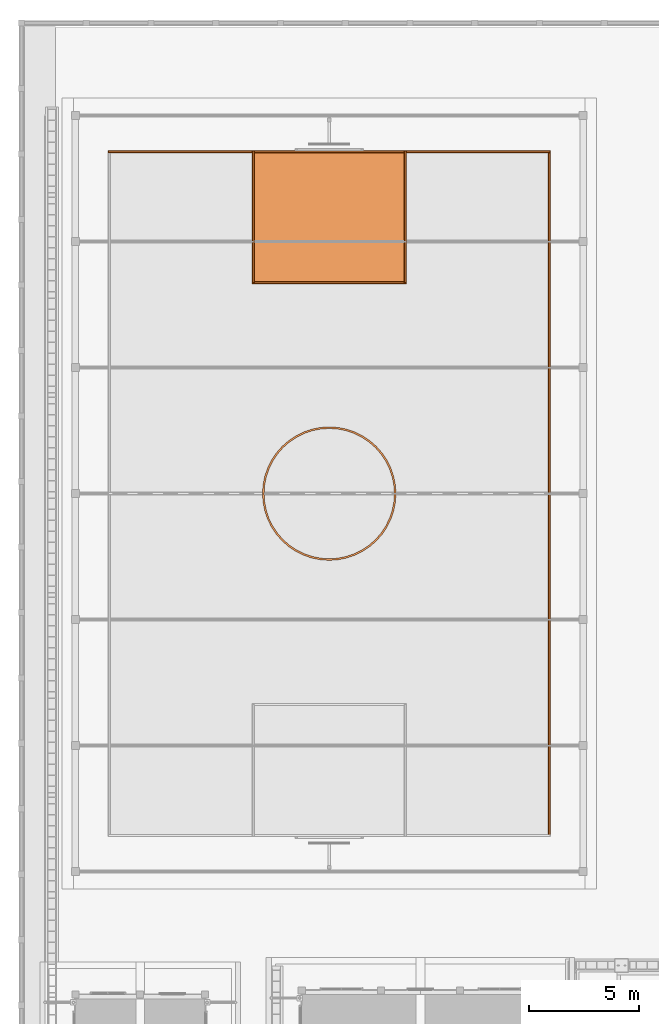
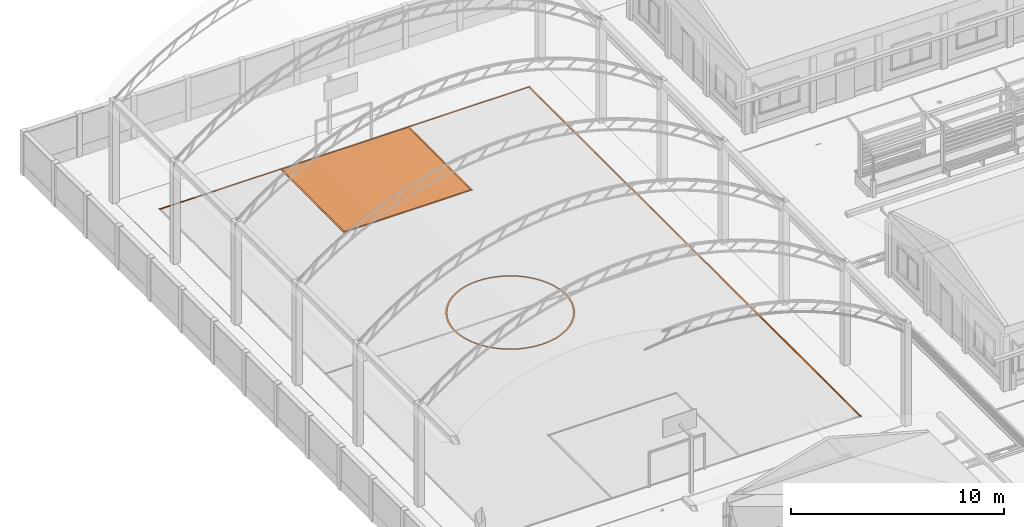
# One storey, part 150 of 151: 7 proxies.
"""IFC2X3 building model written with IfcOpenShell, lengths in metres."""

from ifc_helpers import new_model, si_unit, origin, origin_with_axes, place, context, subcontext, project, spatial, faceted_brep, element, save


model = new_model("IFC2X3")

# Units and contexts
model_context = context("Model", 3, precision=1e-05, world=origin_with_axes())
body_context = subcontext(model_context, "Body", "Model", "MODEL_VIEW")
ifc_project = project(units=[si_unit("LENGTHUNIT", "METRE"), si_unit("AREAUNIT", "SQUARE_METRE"), si_unit("VOLUMEUNIT", "CUBIC_METRE"), si_unit("PLANEANGLEUNIT", "RADIAN")], contexts=[model_context])

# Site, building, storey
site_placement = place(None, origin_with_axes())
site = spatial("IfcSite", under=ifc_project, at=site_placement, Name="Predio Los Mangos - Morales, San Martín", CompositionType="ELEMENT")
building_placement = place(site_placement, origin())
building = spatial("IfcBuilding", under=site, at=building_placement, Name="Hogar de Refugio Temporal", CompositionType="ELEMENT")
storey_placement = place(building_placement, origin())
storey = spatial("IfcBuildingStorey", under=building, at=storey_placement, Name="NIVEL 1 (NPT +0.00)", CompositionType="ELEMENT", Elevation=0.0)

# Proxies
proxy_1_placement = place(storey_placement, origin())
element("IfcBuildingElementProxy", 1, at=proxy_1_placement, inside=storey, Name="linea_cancha", ObjectType="Losa deportiva y vía", context=body_context, shape_type="Brep", body=[
    faceted_brep([(5.0, 125.32, 0.125), (5.0, 125.4, 0.125), (25.1, 125.4, 0.125), (25.1, 125.32, 0.125), (5.0, 125.32, 0.127), (25.1, 125.32, 0.127), (25.1, 125.4, 0.127), (5.0, 125.4, 0.127)], [[[0, 1, 2, 3]], [[4, 5, 6, 7]], [[0, 3, 5, 4]], [[3, 2, 6, 5]], [[2, 1, 7, 6]], [[1, 0, 4, 7]]]),
])
proxy_2_placement = place(storey_placement, origin())
element("IfcBuildingElementProxy", 2, at=proxy_2_placement, inside=storey, Name="linea_cancha", ObjectType="Losa deportiva y vía", context=body_context, shape_type="Brep", body=[
    faceted_brep([(25.02, 94.2, 0.125), (25.02, 125.4, 0.125), (25.1, 125.4, 0.125), (25.1, 94.2, 0.125), (25.02, 94.2, 0.127), (25.1, 94.2, 0.127), (25.1, 125.4, 0.127), (25.02, 125.4, 0.127)], [[[0, 1, 2, 3]], [[4, 5, 6, 7]], [[0, 3, 5, 4]], [[3, 2, 6, 5]], [[2, 1, 7, 6]], [[1, 0, 4, 7]]]),
])
proxy_3_placement = place(storey_placement, origin())
element("IfcBuildingElementProxy", 3, at=proxy_3_placement, inside=storey, Name="Torus", ObjectType="Elemento", context=body_context, shape_type="Brep", body=[
    faceted_brep([(18.09, 109.8, 0.125), (18.064, 110.1968, 0.125), (18.0587, 110.1961, 0.126), (18.0846, 109.8, 0.126), (18.0442, 110.1942, 0.1267), (18.07, 109.8, 0.1267), (18.0243, 110.1916, 0.127), (18.05, 109.8, 0.127), (18.0045, 110.189, 0.1267), (18.03, 109.8, 0.1267), (17.99, 110.1871, 0.126), (18.0154, 109.8, 0.126), (17.9847, 110.1864, 0.125), (18.01, 109.8, 0.125), (17.99, 110.1871, 0.124), (18.0154, 109.8, 0.124), (18.0045, 110.189, 0.1233), (18.03, 109.8, 0.1233), (18.0243, 110.1916, 0.123), (18.05, 109.8, 0.123), (18.0442, 110.1942, 0.1233), (18.07, 109.8, 0.1233), (18.0587, 110.1961, 0.124), (18.0846, 109.8, 0.124), (17.9864, 110.5868, 0.125), (17.9812, 110.5854, 0.126), (17.9671, 110.5816, 0.1267), (17.9478, 110.5765, 0.127), (17.9285, 110.5713, 0.1267), (17.9143, 110.5675, 0.126), (17.9091, 110.5661, 0.125), (17.9143, 110.5675, 0.124), (17.9285, 110.5713, 0.1233), (17.9478, 110.5765, 0.123), (17.9671, 110.5816, 0.1233), (17.9812, 110.5854, 0.124), (17.8586, 110.9634, 0.125), (17.8536, 110.9613, 0.126), (17.8401, 110.9557, 0.1267), (17.8216, 110.9481, 0.127), (17.8032, 110.9404, 0.1267), (17.7896, 110.9348, 0.126), (17.7847, 110.9327, 0.125), (17.7896, 110.9348, 0.124), (17.8032, 110.9404, 0.1233), (17.8216, 110.9481, 0.123), (17.8401, 110.9557, 0.1233), (17.8536, 110.9613, 0.124), (17.6827, 111.32, 0.125), (17.6781, 111.3173, 0.126), (17.6654, 111.31, 0.1267), (17.6481, 111.3, 0.127), (17.6308, 111.29, 0.1267), (17.6181, 111.2827, 0.126), (17.6134, 111.28, 0.125), (17.6181, 111.2827, 0.124), (17.6308, 111.29, 0.1233), (17.6481, 111.3, 0.123), (17.6654, 111.31, 0.1233), (17.6781, 111.3173, 0.124), (17.4618, 111.6506, 0.125), (17.4575, 111.6474, 0.126), (17.4459, 111.6385, 0.1267), (17.4301, 111.6263, 0.127), (17.4142, 111.6141, 0.1267), (17.4026, 111.6052, 0.126), (17.3983, 111.6019, 0.125), (17.4026, 111.6052, 0.124), (17.4142, 111.6141, 0.1233), (17.4301, 111.6263, 0.123), (17.4459, 111.6385, 0.1233), (17.4575, 111.6474, 0.124), (17.1996, 111.9496, 0.125), (17.1958, 111.9458, 0.126), (17.1855, 111.9355, 0.1267), (17.1713, 111.9213, 0.127), (17.1572, 111.9072, 0.1267), (17.1468, 111.8968, 0.126), (17.143, 111.893, 0.125), (17.1468, 111.8968, 0.124), (17.1572, 111.9072, 0.1233), (17.1713, 111.9213, 0.123), (17.1855, 111.9355, 0.1233), (17.1958, 111.9458, 0.124), (16.9006, 112.2118, 0.125), (16.8974, 112.2075, 0.126), (16.8885, 112.1959, 0.1267), (16.8763, 112.1801, 0.127), (16.8641, 112.1642, 0.1267), (16.8552, 112.1526, 0.126), (16.8519, 112.1483, 0.125), (16.8552, 112.1526, 0.124), (16.8641, 112.1642, 0.1233), (16.8763, 112.1801, 0.123), (16.8885, 112.1959, 0.1233), (16.8974, 112.2075, 0.124), (16.57, 112.4327, 0.125), (16.5673, 112.4281, 0.126), (16.56, 112.4154, 0.1267), (16.55, 112.3981, 0.127), (16.54, 112.3808, 0.1267), (16.5327, 112.3681, 0.126), (16.53, 112.3634, 0.125), (16.5327, 112.3681, 0.124), (16.54, 112.3808, 0.1233), (16.55, 112.3981, 0.123), (16.56, 112.4154, 0.1233), (16.5673, 112.4281, 0.124), (16.2134, 112.6086, 0.125), (16.2113, 112.6036, 0.126), (16.2057, 112.5901, 0.1267), (16.1981, 112.5716, 0.127), (16.1904, 112.5532, 0.1267), (16.1848, 112.5396, 0.126), (16.1827, 112.5347, 0.125), (16.1848, 112.5396, 0.124), (16.1904, 112.5532, 0.1233), (16.1981, 112.5716, 0.123), (16.2057, 112.5901, 0.1233), (16.2113, 112.6036, 0.124), (15.8368, 112.7364, 0.125), (15.8354, 112.7312, 0.126), (15.8316, 112.7171, 0.1267), (15.8265, 112.6978, 0.127), (15.8213, 112.6785, 0.1267), (15.8175, 112.6643, 0.126), (15.8161, 112.6591, 0.125), (15.8175, 112.6643, 0.124), (15.8213, 112.6785, 0.1233), (15.8265, 112.6978, 0.123), (15.8316, 112.7171, 0.1233), (15.8354, 112.7312, 0.124), (15.4468, 112.814, 0.125), (15.4461, 112.8087, 0.126), (15.4442, 112.7942, 0.1267), (15.4416, 112.7743, 0.127), (15.439, 112.7545, 0.1267), (15.4371, 112.74, 0.126), (15.4364, 112.7347, 0.125), (15.4371, 112.74, 0.124), (15.439, 112.7545, 0.1233), (15.4416, 112.7743, 0.123), (15.4442, 112.7942, 0.1233), (15.4461, 112.8087, 0.124), (15.05, 112.84, 0.125), (15.05, 112.8346, 0.126), (15.05, 112.82, 0.1267), (15.05, 112.8, 0.127), (15.05, 112.78, 0.1267), (15.05, 112.7654, 0.126), (15.05, 112.76, 0.125), (15.05, 112.7654, 0.124), (15.05, 112.78, 0.1233), (15.05, 112.8, 0.123), (15.05, 112.82, 0.1233), (15.05, 112.8346, 0.124), (14.6532, 112.814, 0.125), (14.6539, 112.8087, 0.126), (14.6558, 112.7942, 0.1267), (14.6584, 112.7743, 0.127), (14.661, 112.7545, 0.1267), (14.6629, 112.74, 0.126), (14.6636, 112.7347, 0.125), (14.6629, 112.74, 0.124), (14.661, 112.7545, 0.1233), (14.6584, 112.7743, 0.123), (14.6558, 112.7942, 0.1233), (14.6539, 112.8087, 0.124), (14.2632, 112.7364, 0.125), (14.2646, 112.7312, 0.126), (14.2684, 112.7171, 0.1267), (14.2735, 112.6978, 0.127), (14.2787, 112.6785, 0.1267), (14.2825, 112.6643, 0.126), (14.2839, 112.6591, 0.125), (14.2825, 112.6643, 0.124), (14.2787, 112.6785, 0.1233), (14.2735, 112.6978, 0.123), (14.2684, 112.7171, 0.1233), (14.2646, 112.7312, 0.124), (13.8866, 112.6086, 0.125), (13.8887, 112.6036, 0.126), (13.8943, 112.5901, 0.1267), (13.9019, 112.5716, 0.127), (13.9096, 112.5532, 0.1267), (13.9152, 112.5396, 0.126), (13.9173, 112.5347, 0.125), (13.9152, 112.5396, 0.124), (13.9096, 112.5532, 0.1233), (13.9019, 112.5716, 0.123), (13.8943, 112.5901, 0.1233), (13.8887, 112.6036, 0.124), (13.53, 112.4327, 0.125), (13.5327, 112.4281, 0.126), (13.54, 112.4154, 0.1267), (13.55, 112.3981, 0.127), (13.56, 112.3808, 0.1267), (13.5673, 112.3681, 0.126), (13.57, 112.3634, 0.125), (13.5673, 112.3681, 0.124), (13.56, 112.3808, 0.1233), (13.55, 112.3981, 0.123), (13.54, 112.4154, 0.1233), (13.5327, 112.4281, 0.124), (13.1994, 112.2118, 0.125), (13.2026, 112.2075, 0.126), (13.2115, 112.1959, 0.1267), (13.2237, 112.1801, 0.127), (13.2359, 112.1642, 0.1267), (13.2448, 112.1526, 0.126), (13.2481, 112.1483, 0.125), (13.2448, 112.1526, 0.124), (13.2359, 112.1642, 0.1233), (13.2237, 112.1801, 0.123), (13.2115, 112.1959, 0.1233), (13.2026, 112.2075, 0.124), (12.9004, 111.9496, 0.125), (12.9042, 111.9458, 0.126), (12.9145, 111.9355, 0.1267), (12.9287, 111.9213, 0.127), (12.9428, 111.9072, 0.1267), (12.9532, 111.8968, 0.126), (12.957, 111.893, 0.125), (12.9532, 111.8968, 0.124), (12.9428, 111.9072, 0.1233), (12.9287, 111.9213, 0.123), (12.9145, 111.9355, 0.1233), (12.9042, 111.9458, 0.124), (12.6382, 111.6506, 0.125), (12.6425, 111.6474, 0.126), (12.6541, 111.6385, 0.1267), (12.6699, 111.6263, 0.127), (12.6858, 111.6141, 0.1267), (12.6974, 111.6052, 0.126), (12.7017, 111.6019, 0.125), (12.6974, 111.6052, 0.124), (12.6858, 111.6141, 0.1233), (12.6699, 111.6263, 0.123), (12.6541, 111.6385, 0.1233), (12.6425, 111.6474, 0.124), (12.4173, 111.32, 0.125), (12.4219, 111.3173, 0.126), (12.4346, 111.31, 0.1267), (12.4519, 111.3, 0.127), (12.4692, 111.29, 0.1267), (12.4819, 111.2827, 0.126), (12.4866, 111.28, 0.125), (12.4819, 111.2827, 0.124), (12.4692, 111.29, 0.1233), (12.4519, 111.3, 0.123), (12.4346, 111.31, 0.1233), (12.4219, 111.3173, 0.124), (12.2414, 110.9634, 0.125), (12.2464, 110.9613, 0.126), (12.2599, 110.9557, 0.1267), (12.2784, 110.9481, 0.127), (12.2968, 110.9404, 0.1267), (12.3104, 110.9348, 0.126), (12.3153, 110.9327, 0.125), (12.3104, 110.9348, 0.124), (12.2968, 110.9404, 0.1233), (12.2784, 110.9481, 0.123), (12.2599, 110.9557, 0.1233), (12.2464, 110.9613, 0.124), (12.1136, 110.5868, 0.125), (12.1188, 110.5854, 0.126), (12.1329, 110.5816, 0.1267), (12.1522, 110.5765, 0.127), (12.1715, 110.5713, 0.1267), (12.1857, 110.5675, 0.126), (12.1909, 110.5661, 0.125), (12.1857, 110.5675, 0.124), (12.1715, 110.5713, 0.1233), (12.1522, 110.5765, 0.123), (12.1329, 110.5816, 0.1233), (12.1188, 110.5854, 0.124), (12.036, 110.1968, 0.125), (12.0413, 110.1961, 0.126), (12.0558, 110.1942, 0.1267), (12.0757, 110.1916, 0.127), (12.0955, 110.189, 0.1267), (12.11, 110.1871, 0.126), (12.1153, 110.1864, 0.125), (12.11, 110.1871, 0.124), (12.0955, 110.189, 0.1233), (12.0757, 110.1916, 0.123), (12.0558, 110.1942, 0.1233), (12.0413, 110.1961, 0.124), (12.01, 109.8, 0.125), (12.0154, 109.8, 0.126), (12.03, 109.8, 0.1267), (12.05, 109.8, 0.127), (12.07, 109.8, 0.1267), (12.0846, 109.8, 0.126), (12.09, 109.8, 0.125), (12.0846, 109.8, 0.124), (12.07, 109.8, 0.1233), (12.05, 109.8, 0.123), (12.03, 109.8, 0.1233), (12.0154, 109.8, 0.124), (12.036, 109.4032, 0.125), (12.0413, 109.4039, 0.126), (12.0558, 109.4058, 0.1267), (12.0757, 109.4084, 0.127), (12.0955, 109.411, 0.1267), (12.11, 109.4129, 0.126), (12.1153, 109.4136, 0.125), (12.11, 109.4129, 0.124), (12.0955, 109.411, 0.1233), (12.0757, 109.4084, 0.123), (12.0558, 109.4058, 0.1233), (12.0413, 109.4039, 0.124), (12.1136, 109.0132, 0.125), (12.1188, 109.0146, 0.126), (12.1329, 109.0184, 0.1267), (12.1522, 109.0235, 0.127), (12.1715, 109.0287, 0.1267), (12.1857, 109.0325, 0.126), (12.1909, 109.0339, 0.125), (12.1857, 109.0325, 0.124), (12.1715, 109.0287, 0.1233), (12.1522, 109.0235, 0.123), (12.1329, 109.0184, 0.1233), (12.1188, 109.0146, 0.124), (12.2414, 108.6367, 0.125), (12.2464, 108.6387, 0.126), (12.2599, 108.6443, 0.1267), (12.2784, 108.652, 0.127), (12.2968, 108.6596, 0.1267), (12.3104, 108.6652, 0.126), (12.3153, 108.6673, 0.125), (12.3104, 108.6652, 0.124), (12.2968, 108.6596, 0.1233), (12.2784, 108.652, 0.123), (12.2599, 108.6443, 0.1233), (12.2464, 108.6387, 0.124), (12.4173, 108.28, 0.125), (12.4219, 108.2827, 0.126), (12.4346, 108.29, 0.1267), (12.4519, 108.3, 0.127), (12.4692, 108.31, 0.1267), (12.4819, 108.3173, 0.126), (12.4866, 108.32, 0.125), (12.4819, 108.3173, 0.124), (12.4692, 108.31, 0.1233), (12.4519, 108.3, 0.123), (12.4346, 108.29, 0.1233), (12.4219, 108.2827, 0.124), (12.6382, 107.9494, 0.125), (12.6425, 107.9526, 0.126), (12.6541, 107.9615, 0.1267), (12.6699, 107.9737, 0.127), (12.6858, 107.9859, 0.1267), (12.6974, 107.9948, 0.126), (12.7017, 107.9981, 0.125), (12.6974, 107.9948, 0.124), (12.6858, 107.9859, 0.1233), (12.6699, 107.9737, 0.123), (12.6541, 107.9615, 0.1233), (12.6425, 107.9526, 0.124), (12.9004, 107.6504, 0.125), (12.9042, 107.6542, 0.126), (12.9145, 107.6645, 0.1267), (12.9287, 107.6787, 0.127), (12.9428, 107.6928, 0.1267), (12.9532, 107.7032, 0.126), (12.957, 107.707, 0.125), (12.9532, 107.7032, 0.124), (12.9428, 107.6928, 0.1233), (12.9287, 107.6787, 0.123), (12.9145, 107.6645, 0.1233), (12.9042, 107.6542, 0.124), (13.1994, 107.3882, 0.125), (13.2026, 107.3925, 0.126), (13.2115, 107.4041, 0.1267), (13.2237, 107.4199, 0.127), (13.2359, 107.4358, 0.1267), (13.2448, 107.4474, 0.126), (13.2481, 107.4517, 0.125), (13.2448, 107.4474, 0.124), (13.2359, 107.4358, 0.1233), (13.2237, 107.4199, 0.123), (13.2115, 107.4041, 0.1233), (13.2026, 107.3925, 0.124), (13.53, 107.1673, 0.125), (13.5327, 107.1719, 0.126), (13.54, 107.1846, 0.1267), (13.55, 107.2019, 0.127), (13.56, 107.2192, 0.1267), (13.5673, 107.2319, 0.126), (13.57, 107.2366, 0.125), (13.5673, 107.2319, 0.124), (13.56, 107.2192, 0.1233), (13.55, 107.2019, 0.123), (13.54, 107.1846, 0.1233), (13.5327, 107.1719, 0.124), (13.8866, 106.9914, 0.125), (13.8887, 106.9964, 0.126), (13.8943, 107.0099, 0.1267), (13.9019, 107.0284, 0.127), (13.9096, 107.0468, 0.1267), (13.9152, 107.0604, 0.126), (13.9173, 107.0653, 0.125), (13.9152, 107.0604, 0.124), (13.9096, 107.0468, 0.1233), (13.9019, 107.0284, 0.123), (13.8943, 107.0099, 0.1233), (13.8887, 106.9964, 0.124), (14.2632, 106.8636, 0.125), (14.2646, 106.8688, 0.126), (14.2684, 106.8829, 0.1267), (14.2735, 106.9022, 0.127), (14.2787, 106.9215, 0.1267), (14.2825, 106.9357, 0.126), (14.2839, 106.9409, 0.125), (14.2825, 106.9357, 0.124), (14.2787, 106.9215, 0.1233), (14.2735, 106.9022, 0.123), (14.2684, 106.8829, 0.1233), (14.2646, 106.8688, 0.124), (14.6532, 106.786, 0.125), (14.6539, 106.7913, 0.126), (14.6558, 106.8058, 0.1267), (14.6584, 106.8257, 0.127), (14.661, 106.8455, 0.1267), (14.6629, 106.86, 0.126), (14.6636, 106.8653, 0.125), (14.6629, 106.86, 0.124), (14.661, 106.8455, 0.1233), (14.6584, 106.8257, 0.123), (14.6558, 106.8058, 0.1233), (14.6539, 106.7913, 0.124), (15.05, 106.76, 0.125), (15.05, 106.7654, 0.126), (15.05, 106.78, 0.1267), (15.05, 106.8, 0.127), (15.05, 106.82, 0.1267), (15.05, 106.8346, 0.126), (15.05, 106.84, 0.125), (15.05, 106.8346, 0.124), (15.05, 106.82, 0.1233), (15.05, 106.8, 0.123), (15.05, 106.78, 0.1233), (15.05, 106.7654, 0.124), (15.4468, 106.786, 0.125), (15.4461, 106.7913, 0.126), (15.4442, 106.8058, 0.1267), (15.4416, 106.8257, 0.127), (15.439, 106.8455, 0.1267), (15.4371, 106.86, 0.126), (15.4364, 106.8653, 0.125), (15.4371, 106.86, 0.124), (15.439, 106.8455, 0.1233), (15.4416, 106.8257, 0.123), (15.4442, 106.8058, 0.1233), (15.4461, 106.7913, 0.124), (15.8368, 106.8636, 0.125), (15.8354, 106.8688, 0.126), (15.8316, 106.8829, 0.1267), (15.8265, 106.9022, 0.127), (15.8213, 106.9215, 0.1267), (15.8175, 106.9357, 0.126), (15.8161, 106.9409, 0.125), (15.8175, 106.9357, 0.124), (15.8213, 106.9215, 0.1233), (15.8265, 106.9022, 0.123), (15.8316, 106.8829, 0.1233), (15.8354, 106.8688, 0.124), (16.2134, 106.9914, 0.125), (16.2113, 106.9964, 0.126), (16.2057, 107.0099, 0.1267), (16.1981, 107.0284, 0.127), (16.1904, 107.0468, 0.1267), (16.1848, 107.0604, 0.126), (16.1827, 107.0653, 0.125), (16.1848, 107.0604, 0.124), (16.1904, 107.0468, 0.1233), (16.1981, 107.0284, 0.123), (16.2057, 107.0099, 0.1233), (16.2113, 106.9964, 0.124), (16.57, 107.1673, 0.125), (16.5673, 107.1719, 0.126), (16.56, 107.1846, 0.1267), (16.55, 107.2019, 0.127), (16.54, 107.2192, 0.1267), (16.5327, 107.2319, 0.126), (16.53, 107.2366, 0.125), (16.5327, 107.2319, 0.124), (16.54, 107.2192, 0.1233), (16.55, 107.2019, 0.123), (16.56, 107.1846, 0.1233), (16.5673, 107.1719, 0.124), (16.9006, 107.3882, 0.125), (16.8974, 107.3925, 0.126), (16.8885, 107.4041, 0.1267), (16.8763, 107.4199, 0.127), (16.8641, 107.4358, 0.1267), (16.8552, 107.4474, 0.126), (16.8519, 107.4517, 0.125), (16.8552, 107.4474, 0.124), (16.8641, 107.4358, 0.1233), (16.8763, 107.4199, 0.123), (16.8885, 107.4041, 0.1233), (16.8974, 107.3925, 0.124), (17.1996, 107.6504, 0.125), (17.1958, 107.6542, 0.126), (17.1855, 107.6645, 0.1267), (17.1713, 107.6787, 0.127), (17.1572, 107.6928, 0.1267), (17.1468, 107.7032, 0.126), (17.143, 107.707, 0.125), (17.1468, 107.7032, 0.124), (17.1572, 107.6928, 0.1233), (17.1713, 107.6787, 0.123), (17.1855, 107.6645, 0.1233), (17.1958, 107.6542, 0.124), (17.4618, 107.9494, 0.125), (17.4575, 107.9526, 0.126), (17.4459, 107.9615, 0.1267), (17.4301, 107.9737, 0.127), (17.4142, 107.9859, 0.1267), (17.4026, 107.9948, 0.126), (17.3983, 107.9981, 0.125), (17.4026, 107.9948, 0.124), (17.4142, 107.9859, 0.1233), (17.4301, 107.9737, 0.123), (17.4459, 107.9615, 0.1233), (17.4575, 107.9526, 0.124), (17.6827, 108.28, 0.125), (17.6781, 108.2827, 0.126), (17.6654, 108.29, 0.1267), (17.6481, 108.3, 0.127), (17.6308, 108.31, 0.1267), (17.6181, 108.3173, 0.126), (17.6134, 108.32, 0.125), (17.6181, 108.3173, 0.124), (17.6308, 108.31, 0.1233), (17.6481, 108.3, 0.123), (17.6654, 108.29, 0.1233), (17.6781, 108.2827, 0.124), (17.8586, 108.6366, 0.125), (17.8536, 108.6387, 0.126), (17.8401, 108.6443, 0.1267), (17.8216, 108.652, 0.127), (17.8032, 108.6596, 0.1267), (17.7896, 108.6652, 0.126), (17.7847, 108.6673, 0.125), (17.7896, 108.6652, 0.124), (17.8032, 108.6596, 0.1233), (17.8216, 108.652, 0.123), (17.8401, 108.6443, 0.1233), (17.8536, 108.6387, 0.124), (17.9864, 109.0132, 0.125), (17.9812, 109.0146, 0.126), (17.9671, 109.0184, 0.1267), (17.9478, 109.0235, 0.127), (17.9285, 109.0287, 0.1267), (17.9143, 109.0325, 0.126), (17.9091, 109.0339, 0.125), (17.9143, 109.0325, 0.124), (17.9285, 109.0287, 0.1233), (17.9478, 109.0235, 0.123), (17.9671, 109.0184, 0.1233), (17.9812, 109.0146, 0.124), (18.064, 109.4032, 0.125), (18.0587, 109.4039, 0.126), (18.0442, 109.4058, 0.1267), (18.0243, 109.4084, 0.127), (18.0045, 109.411, 0.1267), (17.99, 109.4129, 0.126), (17.9847, 109.4136, 0.125), (17.99, 109.4129, 0.124), (18.0045, 109.411, 0.1233), (18.0243, 109.4084, 0.123), (18.0442, 109.4058, 0.1233), (18.0587, 109.4039, 0.124)], [[[0, 1, 2, 3]], [[3, 2, 4, 5]], [[5, 4, 6, 7]], [[7, 6, 8, 9]], [[9, 8, 10, 11]], [[11, 10, 12, 13]], [[13, 12, 14, 15]], [[15, 14, 16, 17]], [[17, 16, 18, 19]], [[19, 18, 20, 21]], [[21, 20, 22, 23]], [[23, 22, 1, 0]], [[1, 24, 25, 2]], [[2, 25, 26, 4]], [[4, 26, 27, 6]], [[6, 27, 28, 8]], [[8, 28, 29, 10]], [[10, 29, 30, 12]], [[12, 30, 31, 14]], [[14, 31, 32, 16]], [[16, 32, 33, 18]], [[18, 33, 34, 20]], [[20, 34, 35, 22]], [[22, 35, 24, 1]], [[24, 36, 37, 25]], [[25, 37, 38, 26]], [[26, 38, 39, 27]], [[27, 39, 40, 28]], [[28, 40, 41, 29]], [[29, 41, 42, 30]], [[30, 42, 43, 31]], [[31, 43, 44, 32]], [[32, 44, 45, 33]], [[33, 45, 46, 34]], [[34, 46, 47, 35]], [[35, 47, 36, 24]], [[36, 48, 49, 37]], [[37, 49, 50, 38]], [[38, 50, 51, 39]], [[39, 51, 52, 40]], [[40, 52, 53, 41]], [[41, 53, 54, 42]], [[42, 54, 55, 43]], [[43, 55, 56, 44]], [[44, 56, 57, 45]], [[45, 57, 58, 46]], [[46, 58, 59, 47]], [[47, 59, 48, 36]], [[48, 60, 61, 49]], [[49, 61, 62, 50]], [[50, 62, 63, 51]], [[51, 63, 64, 52]], [[52, 64, 65, 53]], [[53, 65, 66, 54]], [[54, 66, 67, 55]], [[55, 67, 68, 56]], [[56, 68, 69, 57]], [[57, 69, 70, 58]], [[58, 70, 71, 59]], [[59, 71, 60, 48]], [[60, 72, 73, 61]], [[61, 73, 74, 62]], [[62, 74, 75, 63]], [[63, 75, 76, 64]], [[64, 76, 77, 65]], [[65, 77, 78, 66]], [[66, 78, 79, 67]], [[67, 79, 80, 68]], [[68, 80, 81, 69]], [[69, 81, 82, 70]], [[70, 82, 83, 71]], [[71, 83, 72, 60]], [[72, 84, 85, 73]], [[73, 85, 86, 74]], [[74, 86, 87, 75]], [[75, 87, 88, 76]], [[76, 88, 89, 77]], [[77, 89, 90, 78]], [[78, 90, 91, 79]], [[79, 91, 92, 80]], [[80, 92, 93, 81]], [[81, 93, 94, 82]], [[82, 94, 95, 83]], [[83, 95, 84, 72]], [[84, 96, 97, 85]], [[85, 97, 98, 86]], [[86, 98, 99, 87]], [[87, 99, 100, 88]], [[88, 100, 101, 89]], [[89, 101, 102, 90]], [[90, 102, 103, 91]], [[91, 103, 104, 92]], [[92, 104, 105, 93]], [[93, 105, 106, 94]], [[94, 106, 107, 95]], [[95, 107, 96, 84]], [[96, 108, 109, 97]], [[97, 109, 110, 98]], [[98, 110, 111, 99]], [[99, 111, 112, 100]], [[100, 112, 113, 101]], [[101, 113, 114, 102]], [[102, 114, 115, 103]], [[103, 115, 116, 104]], [[104, 116, 117, 105]], [[105, 117, 118, 106]], [[106, 118, 119, 107]], [[107, 119, 108, 96]], [[108, 120, 121, 109]], [[109, 121, 122, 110]], [[110, 122, 123, 111]], [[111, 123, 124, 112]], [[112, 124, 125, 113]], [[113, 125, 126, 114]], [[114, 126, 127, 115]], [[115, 127, 128, 116]], [[116, 128, 129, 117]], [[117, 129, 130, 118]], [[118, 130, 131, 119]], [[119, 131, 120, 108]], [[120, 132, 133, 121]], [[121, 133, 134, 122]], [[122, 134, 135, 123]], [[123, 135, 136, 124]], [[124, 136, 137, 125]], [[125, 137, 138, 126]], [[126, 138, 139, 127]], [[127, 139, 140, 128]], [[128, 140, 141, 129]], [[129, 141, 142, 130]], [[130, 142, 143, 131]], [[131, 143, 132, 120]], [[132, 144, 145, 133]], [[133, 145, 146, 134]], [[134, 146, 147, 135]], [[135, 147, 148, 136]], [[136, 148, 149, 137]], [[137, 149, 150, 138]], [[138, 150, 151, 139]], [[139, 151, 152, 140]], [[140, 152, 153, 141]], [[141, 153, 154, 142]], [[142, 154, 155, 143]], [[143, 155, 144, 132]], [[144, 156, 157, 145]], [[145, 157, 158, 146]], [[146, 158, 159, 147]], [[147, 159, 160, 148]], [[148, 160, 161, 149]], [[149, 161, 162, 150]], [[150, 162, 163, 151]], [[151, 163, 164, 152]], [[152, 164, 165, 153]], [[153, 165, 166, 154]], [[154, 166, 167, 155]], [[155, 167, 156, 144]], [[156, 168, 169, 157]], [[157, 169, 170, 158]], [[158, 170, 171, 159]], [[159, 171, 172, 160]], [[160, 172, 173, 161]], [[161, 173, 174, 162]], [[162, 174, 175, 163]], [[163, 175, 176, 164]], [[164, 176, 177, 165]], [[165, 177, 178, 166]], [[166, 178, 179, 167]], [[167, 179, 168, 156]], [[168, 180, 181, 169]], [[169, 181, 182, 170]], [[170, 182, 183, 171]], [[171, 183, 184, 172]], [[172, 184, 185, 173]], [[173, 185, 186, 174]], [[174, 186, 187, 175]], [[175, 187, 188, 176]], [[176, 188, 189, 177]], [[177, 189, 190, 178]], [[178, 190, 191, 179]], [[179, 191, 180, 168]], [[180, 192, 193, 181]], [[181, 193, 194, 182]], [[182, 194, 195, 183]], [[183, 195, 196, 184]], [[184, 196, 197, 185]], [[185, 197, 198, 186]], [[186, 198, 199, 187]], [[187, 199, 200, 188]], [[188, 200, 201, 189]], [[189, 201, 202, 190]], [[190, 202, 203, 191]], [[191, 203, 192, 180]], [[192, 204, 205, 193]], [[193, 205, 206, 194]], [[194, 206, 207, 195]], [[195, 207, 208, 196]], [[196, 208, 209, 197]], [[197, 209, 210, 198]], [[198, 210, 211, 199]], [[199, 211, 212, 200]], [[200, 212, 213, 201]], [[201, 213, 214, 202]], [[202, 214, 215, 203]], [[203, 215, 204, 192]], [[204, 216, 217, 205]], [[205, 217, 218, 206]], [[206, 218, 219, 207]], [[207, 219, 220, 208]], [[208, 220, 221, 209]], [[209, 221, 222, 210]], [[210, 222, 223, 211]], [[211, 223, 224, 212]], [[212, 224, 225, 213]], [[213, 225, 226, 214]], [[214, 226, 227, 215]], [[215, 227, 216, 204]], [[216, 228, 229, 217]], [[217, 229, 230, 218]], [[218, 230, 231, 219]], [[219, 231, 232, 220]], [[220, 232, 233, 221]], [[221, 233, 234, 222]], [[222, 234, 235, 223]], [[223, 235, 236, 224]], [[224, 236, 237, 225]], [[225, 237, 238, 226]], [[226, 238, 239, 227]], [[227, 239, 228, 216]], [[228, 240, 241, 229]], [[229, 241, 242, 230]], [[230, 242, 243, 231]], [[231, 243, 244, 232]], [[232, 244, 245, 233]], [[233, 245, 246, 234]], [[234, 246, 247, 235]], [[235, 247, 248, 236]], [[236, 248, 249, 237]], [[237, 249, 250, 238]], [[238, 250, 251, 239]], [[239, 251, 240, 228]], [[240, 252, 253, 241]], [[241, 253, 254, 242]], [[242, 254, 255, 243]], [[243, 255, 256, 244]], [[244, 256, 257, 245]], [[245, 257, 258, 246]], [[246, 258, 259, 247]], [[247, 259, 260, 248]], [[248, 260, 261, 249]], [[249, 261, 262, 250]], [[250, 262, 263, 251]], [[251, 263, 252, 240]], [[252, 264, 265, 253]], [[253, 265, 266, 254]], [[254, 266, 267, 255]], [[255, 267, 268, 256]], [[256, 268, 269, 257]], [[257, 269, 270, 258]], [[258, 270, 271, 259]], [[259, 271, 272, 260]], [[260, 272, 273, 261]], [[261, 273, 274, 262]], [[262, 274, 275, 263]], [[263, 275, 264, 252]], [[264, 276, 277, 265]], [[265, 277, 278, 266]], [[266, 278, 279, 267]], [[267, 279, 280, 268]], [[268, 280, 281, 269]], [[269, 281, 282, 270]], [[270, 282, 283, 271]], [[271, 283, 284, 272]], [[272, 284, 285, 273]], [[273, 285, 286, 274]], [[274, 286, 287, 275]], [[275, 287, 276, 264]], [[276, 288, 289, 277]], [[277, 289, 290, 278]], [[278, 290, 291, 279]], [[279, 291, 292, 280]], [[280, 292, 293, 281]], [[281, 293, 294, 282]], [[282, 294, 295, 283]], [[283, 295, 296, 284]], [[284, 296, 297, 285]], [[285, 297, 298, 286]], [[286, 298, 299, 287]], [[287, 299, 288, 276]], [[288, 300, 301, 289]], [[289, 301, 302, 290]], [[290, 302, 303, 291]], [[291, 303, 304, 292]], [[292, 304, 305, 293]], [[293, 305, 306, 294]], [[294, 306, 307, 295]], [[295, 307, 308, 296]], [[296, 308, 309, 297]], [[297, 309, 310, 298]], [[298, 310, 311, 299]], [[299, 311, 300, 288]], [[300, 312, 313, 301]], [[301, 313, 314, 302]], [[302, 314, 315, 303]], [[303, 315, 316, 304]], [[304, 316, 317, 305]], [[305, 317, 318, 306]], [[306, 318, 319, 307]], [[307, 319, 320, 308]], [[308, 320, 321, 309]], [[309, 321, 322, 310]], [[310, 322, 323, 311]], [[311, 323, 312, 300]], [[312, 324, 325, 313]], [[313, 325, 326, 314]], [[314, 326, 327, 315]], [[315, 327, 328, 316]], [[316, 328, 329, 317]], [[317, 329, 330, 318]], [[318, 330, 331, 319]], [[319, 331, 332, 320]], [[320, 332, 333, 321]], [[321, 333, 334, 322]], [[322, 334, 335, 323]], [[323, 335, 324, 312]], [[324, 336, 337, 325]], [[325, 337, 338, 326]], [[326, 338, 339, 327]], [[327, 339, 340, 328]], [[328, 340, 341, 329]], [[329, 341, 342, 330]], [[330, 342, 343, 331]], [[331, 343, 344, 332]], [[332, 344, 345, 333]], [[333, 345, 346, 334]], [[334, 346, 347, 335]], [[335, 347, 336, 324]], [[336, 348, 349, 337]], [[337, 349, 350, 338]], [[338, 350, 351, 339]], [[339, 351, 352, 340]], [[340, 352, 353, 341]], [[341, 353, 354, 342]], [[342, 354, 355, 343]], [[343, 355, 356, 344]], [[344, 356, 357, 345]], [[345, 357, 358, 346]], [[346, 358, 359, 347]], [[347, 359, 348, 336]], [[348, 360, 361, 349]], [[349, 361, 362, 350]], [[350, 362, 363, 351]], [[351, 363, 364, 352]], [[352, 364, 365, 353]], [[353, 365, 366, 354]], [[354, 366, 367, 355]], [[355, 367, 368, 356]], [[356, 368, 369, 357]], [[357, 369, 370, 358]], [[358, 370, 371, 359]], [[359, 371, 360, 348]], [[360, 372, 373, 361]], [[361, 373, 374, 362]], [[362, 374, 375, 363]], [[363, 375, 376, 364]], [[364, 376, 377, 365]], [[365, 377, 378, 366]], [[366, 378, 379, 367]], [[367, 379, 380, 368]], [[368, 380, 381, 369]], [[369, 381, 382, 370]], [[370, 382, 383, 371]], [[371, 383, 372, 360]], [[372, 384, 385, 373]], [[373, 385, 386, 374]], [[374, 386, 387, 375]], [[375, 387, 388, 376]], [[376, 388, 389, 377]], [[377, 389, 390, 378]], [[378, 390, 391, 379]], [[379, 391, 392, 380]], [[380, 392, 393, 381]], [[381, 393, 394, 382]], [[382, 394, 395, 383]], [[383, 395, 384, 372]], [[384, 396, 397, 385]], [[385, 397, 398, 386]], [[386, 398, 399, 387]], [[387, 399, 400, 388]], [[388, 400, 401, 389]], [[389, 401, 402, 390]], [[390, 402, 403, 391]], [[391, 403, 404, 392]], [[392, 404, 405, 393]], [[393, 405, 406, 394]], [[394, 406, 407, 395]], [[395, 407, 396, 384]], [[396, 408, 409, 397]], [[397, 409, 410, 398]], [[398, 410, 411, 399]], [[399, 411, 412, 400]], [[400, 412, 413, 401]], [[401, 413, 414, 402]], [[402, 414, 415, 403]], [[403, 415, 416, 404]], [[404, 416, 417, 405]], [[405, 417, 418, 406]], [[406, 418, 419, 407]], [[407, 419, 408, 396]], [[408, 420, 421, 409]], [[409, 421, 422, 410]], [[410, 422, 423, 411]], [[411, 423, 424, 412]], [[412, 424, 425, 413]], [[413, 425, 426, 414]], [[414, 426, 427, 415]], [[415, 427, 428, 416]], [[416, 428, 429, 417]], [[417, 429, 430, 418]], [[418, 430, 431, 419]], [[419, 431, 420, 408]], [[420, 432, 433, 421]], [[421, 433, 434, 422]], [[422, 434, 435, 423]], [[423, 435, 436, 424]], [[424, 436, 437, 425]], [[425, 437, 438, 426]], [[426, 438, 439, 427]], [[427, 439, 440, 428]], [[428, 440, 441, 429]], [[429, 441, 442, 430]], [[430, 442, 443, 431]], [[431, 443, 432, 420]], [[432, 444, 445, 433]], [[433, 445, 446, 434]], [[434, 446, 447, 435]], [[435, 447, 448, 436]], [[436, 448, 449, 437]], [[437, 449, 450, 438]], [[438, 450, 451, 439]], [[439, 451, 452, 440]], [[440, 452, 453, 441]], [[441, 453, 454, 442]], [[442, 454, 455, 443]], [[443, 455, 444, 432]], [[444, 456, 457, 445]], [[445, 457, 458, 446]], [[446, 458, 459, 447]], [[447, 459, 460, 448]], [[448, 460, 461, 449]], [[449, 461, 462, 450]], [[450, 462, 463, 451]], [[451, 463, 464, 452]], [[452, 464, 465, 453]], [[453, 465, 466, 454]], [[454, 466, 467, 455]], [[455, 467, 456, 444]], [[456, 468, 469, 457]], [[457, 469, 470, 458]], [[458, 470, 471, 459]], [[459, 471, 472, 460]], [[460, 472, 473, 461]], [[461, 473, 474, 462]], [[462, 474, 475, 463]], [[463, 475, 476, 464]], [[464, 476, 477, 465]], [[465, 477, 478, 466]], [[466, 478, 479, 467]], [[467, 479, 468, 456]], [[468, 480, 481, 469]], [[469, 481, 482, 470]], [[470, 482, 483, 471]], [[471, 483, 484, 472]], [[472, 484, 485, 473]], [[473, 485, 486, 474]], [[474, 486, 487, 475]], [[475, 487, 488, 476]], [[476, 488, 489, 477]], [[477, 489, 490, 478]], [[478, 490, 491, 479]], [[479, 491, 480, 468]], [[480, 492, 493, 481]], [[481, 493, 494, 482]], [[482, 494, 495, 483]], [[483, 495, 496, 484]], [[484, 496, 497, 485]], [[485, 497, 498, 486]], [[486, 498, 499, 487]], [[487, 499, 500, 488]], [[488, 500, 501, 489]], [[489, 501, 502, 490]], [[490, 502, 503, 491]], [[491, 503, 492, 480]], [[492, 504, 505, 493]], [[493, 505, 506, 494]], [[494, 506, 507, 495]], [[495, 507, 508, 496]], [[496, 508, 509, 497]], [[497, 509, 510, 498]], [[498, 510, 511, 499]], [[499, 511, 512, 500]], [[500, 512, 513, 501]], [[501, 513, 514, 502]], [[502, 514, 515, 503]], [[503, 515, 504, 492]], [[504, 516, 517, 505]], [[505, 517, 518, 506]], [[506, 518, 519, 507]], [[507, 519, 520, 508]], [[508, 520, 521, 509]], [[509, 521, 522, 510]], [[510, 522, 523, 511]], [[511, 523, 524, 512]], [[512, 524, 525, 513]], [[513, 525, 526, 514]], [[514, 526, 527, 515]], [[515, 527, 516, 504]], [[516, 528, 529, 517]], [[517, 529, 530, 518]], [[518, 530, 531, 519]], [[519, 531, 532, 520]], [[520, 532, 533, 521]], [[521, 533, 534, 522]], [[522, 534, 535, 523]], [[523, 535, 536, 524]], [[524, 536, 537, 525]], [[525, 537, 538, 526]], [[526, 538, 539, 527]], [[527, 539, 528, 516]], [[528, 540, 541, 529]], [[529, 541, 542, 530]], [[530, 542, 543, 531]], [[531, 543, 544, 532]], [[532, 544, 545, 533]], [[533, 545, 546, 534]], [[534, 546, 547, 535]], [[535, 547, 548, 536]], [[536, 548, 549, 537]], [[537, 549, 550, 538]], [[538, 550, 551, 539]], [[539, 551, 540, 528]], [[540, 552, 553, 541]], [[541, 553, 554, 542]], [[542, 554, 555, 543]], [[543, 555, 556, 544]], [[544, 556, 557, 545]], [[545, 557, 558, 546]], [[546, 558, 559, 547]], [[547, 559, 560, 548]], [[548, 560, 561, 549]], [[549, 561, 562, 550]], [[550, 562, 563, 551]], [[551, 563, 552, 540]], [[552, 564, 565, 553]], [[553, 565, 566, 554]], [[554, 566, 567, 555]], [[555, 567, 568, 556]], [[556, 568, 569, 557]], [[557, 569, 570, 558]], [[558, 570, 571, 559]], [[559, 571, 572, 560]], [[560, 572, 573, 561]], [[561, 573, 574, 562]], [[562, 574, 575, 563]], [[563, 575, 564, 552]], [[564, 0, 3, 565]], [[565, 3, 5, 566]], [[566, 5, 7, 567]], [[567, 7, 9, 568]], [[568, 9, 11, 569]], [[569, 11, 13, 570]], [[570, 13, 15, 571]], [[571, 15, 17, 572]], [[572, 17, 19, 573]], [[573, 19, 21, 574]], [[574, 21, 23, 575]], [[575, 23, 0, 564]]]),
])
proxy_4_placement = place(storey_placement, origin())
element("IfcBuildingElementProxy", 4, at=proxy_4_placement, inside=storey, Name="area", ObjectType="Losa deportiva y vía", context=body_context, shape_type="Brep", body=[
    faceted_brep([(11.55, 119.4, 0.125), (11.55, 125.4, 0.125), (18.55, 125.4, 0.125), (18.55, 119.4, 0.125), (11.55, 119.4, 0.127), (18.55, 119.4, 0.127), (18.55, 125.4, 0.127), (11.55, 125.4, 0.127)], [[[0, 1, 2, 3]], [[4, 5, 6, 7]], [[0, 3, 5, 4]], [[3, 2, 6, 5]], [[2, 1, 7, 6]], [[1, 0, 4, 7]]]),
])
proxy_5_placement = place(storey_placement, origin())
element("IfcBuildingElementProxy", 5, at=proxy_5_placement, inside=storey, Name="linea_area", ObjectType="Losa deportiva y vía", context=body_context, shape_type="Brep", body=[
    faceted_brep([(11.55, 119.4, 0.127), (11.55, 125.4, 0.127), (11.63, 125.4, 0.127), (11.63, 119.4, 0.127), (11.55, 119.4, 0.129), (11.63, 119.4, 0.129), (11.63, 125.4, 0.129), (11.55, 125.4, 0.129)], [[[0, 1, 2, 3]], [[4, 5, 6, 7]], [[0, 3, 5, 4]], [[3, 2, 6, 5]], [[2, 1, 7, 6]], [[1, 0, 4, 7]]]),
])
proxy_6_placement = place(storey_placement, origin())
element("IfcBuildingElementProxy", 6, at=proxy_6_placement, inside=storey, Name="linea_area", ObjectType="Losa deportiva y vía", context=body_context, shape_type="Brep", body=[
    faceted_brep([(18.47, 119.4, 0.127), (18.47, 125.4, 0.127), (18.55, 125.4, 0.127), (18.55, 119.4, 0.127), (18.47, 119.4, 0.129), (18.55, 119.4, 0.129), (18.55, 125.4, 0.129), (18.47, 125.4, 0.129)], [[[0, 1, 2, 3]], [[4, 5, 6, 7]], [[0, 3, 5, 4]], [[3, 2, 6, 5]], [[2, 1, 7, 6]], [[1, 0, 4, 7]]]),
])
proxy_7_placement = place(storey_placement, origin())
element("IfcBuildingElementProxy", 7, at=proxy_7_placement, inside=storey, Name="linea_area", ObjectType="Losa deportiva y vía", context=body_context, shape_type="Brep", body=[
    faceted_brep([(11.55, 119.36, 0.127), (11.55, 119.44, 0.127), (18.55, 119.44, 0.127), (18.55, 119.36, 0.127), (11.55, 119.36, 0.129), (18.55, 119.36, 0.129), (18.55, 119.44, 0.129), (11.55, 119.44, 0.129)], [[[0, 1, 2, 3]], [[4, 5, 6, 7]], [[0, 3, 5, 4]], [[3, 2, 6, 5]], [[2, 1, 7, 6]], [[1, 0, 4, 7]]]),
])

save(model, "model.ifc")
